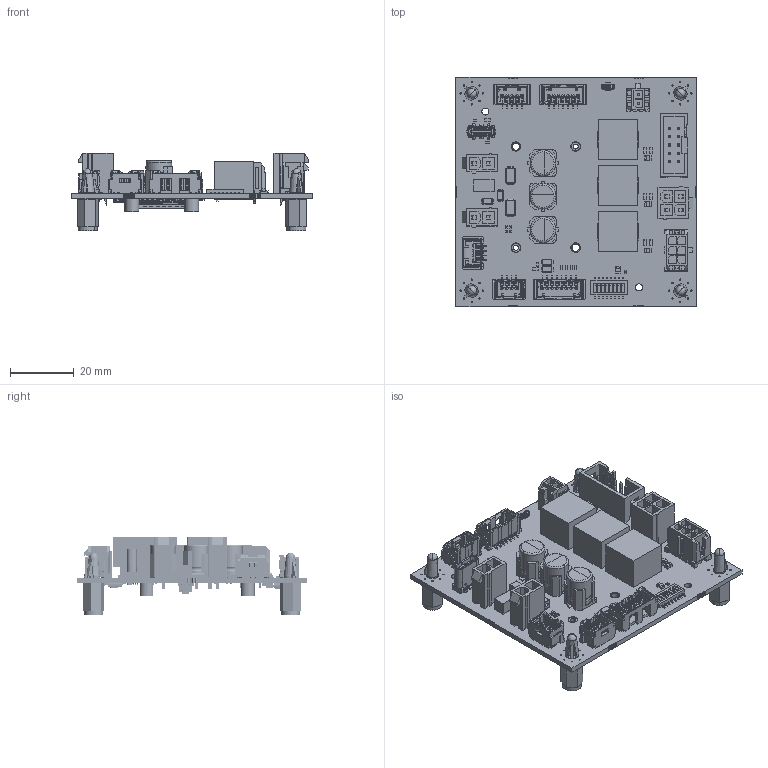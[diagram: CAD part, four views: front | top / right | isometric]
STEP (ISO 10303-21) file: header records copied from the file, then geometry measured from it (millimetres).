
FILE_DESCRIPTION((''),'2;1');
FILE_NAME('11732451','2024-10-10T11:34:40',('MMAGGUKA'),(''),'CREO PARAMETRIC BY PTC INC, 2022484','CREO PARAMETRIC BY PTC INC, 2022484','');
FILE_SCHEMA(('CONFIG_CONTROL_DESIGN','SHAPE_APPEARANCE_LAYERS_GROUPS'));
Products named in the file (1): 11732451
Bounding box: 75.6 x 72 x 24.41 mm (x, y, z)
Volume: 21855.7 mm3; surface area: 30207.4 mm2
Topology: 7 solids, 7 shells, 11877 faces, 34913 edges, 22627 vertices
Faces by surface type: plane 9164, cylinder 2162, sphere 346, extrusion 71, torus 66, cone 60, bspline 8
Entity records: 423508 total; most frequent: CARTESIAN_POINT 74984, ORIENTED_EDGE 69134, DIRECTION 60385, EDGE_CURVE 34567, VECTOR 29701, LINE 29630, VERTEX_POINT 22627, AXIS2_PLACEMENT_3D 15342
